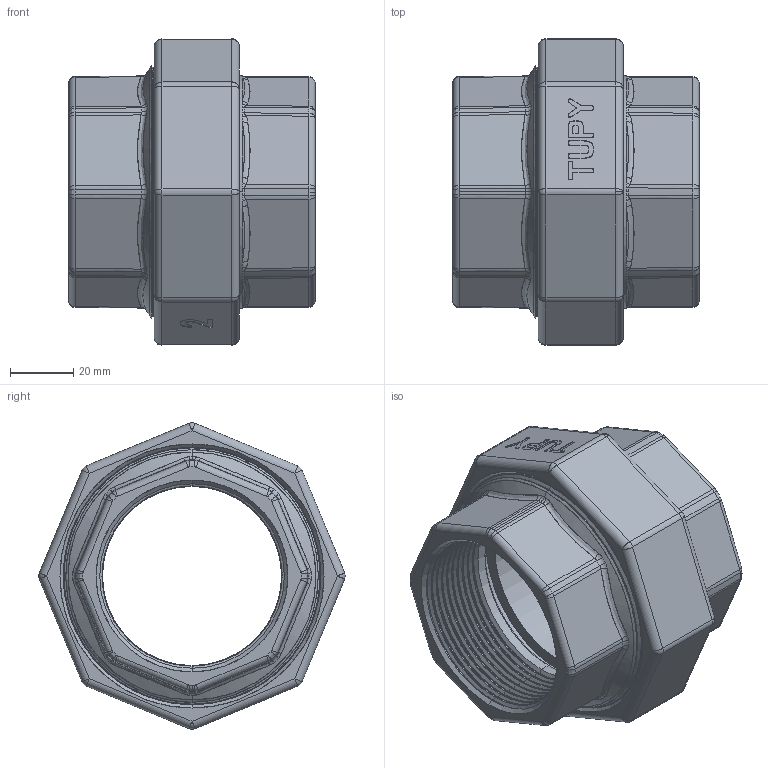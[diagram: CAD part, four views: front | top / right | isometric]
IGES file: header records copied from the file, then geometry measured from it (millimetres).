
Start section: SolidWorks IGES file using analytic representation for surfaces
Global section: file name: C:\Users\Joel Rosa\Desktop\Tubulação\12-62-X\12-62-010.IGS; native system: SolidWorks 2011; preprocessor: SolidWorks 2011; author: Joel Rosa; date: 130721.131414; units: millimetre
Bounding box: 78 x 97 x 97 mm (x, y, z)
Surface area: 71667.2 mm2 (no closed solid volume)
Topology: 0 solids, 0 shells, 715 faces, 5277 edges, 5271 vertices
Faces by surface type: bspline 468, revolution 247
